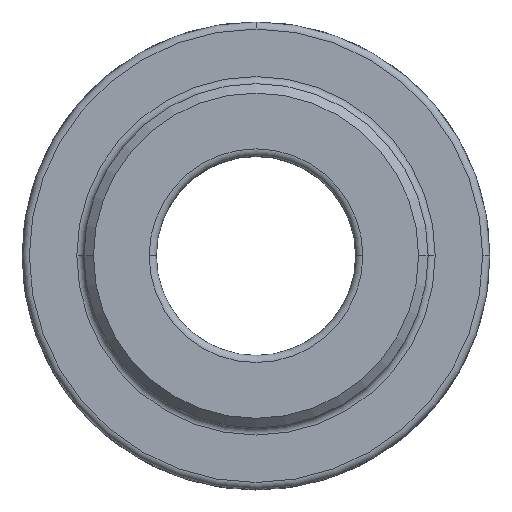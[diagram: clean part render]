
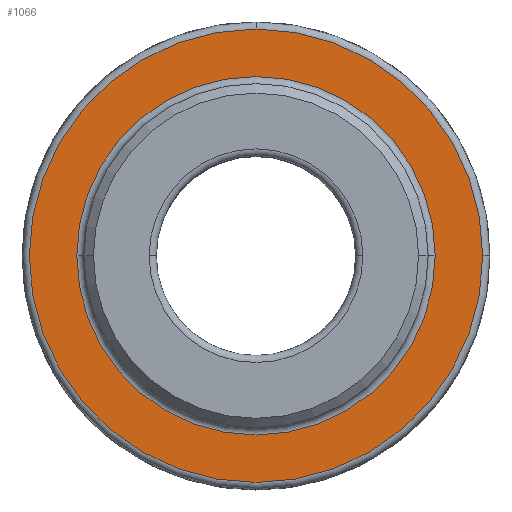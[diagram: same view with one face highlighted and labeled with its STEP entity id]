
A CAD part, top view. The second image highlights one B-rep face of the part: STEP entity #1066.
In plain terms, the highlighted planar face has unit normal (0, 0, 1).
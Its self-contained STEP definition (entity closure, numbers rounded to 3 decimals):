
#949=AXIS2_PLACEMENT_3D('Circle Axis2P3D',#947,#948,$) ;
#966=AXIS2_PLACEMENT_3D('Circle Axis2P3D',#964,#965,$) ;
#973=AXIS2_PLACEMENT_3D('Circle Axis2P3D',#971,#972,$) ;
#980=AXIS2_PLACEMENT_3D('Circle Axis2P3D',#978,#979,$) ;
#1040=AXIS2_PLACEMENT_3D('Plane Axis2P3D',#1037,#1038,#1039) ;
#1050=AXIS2_PLACEMENT_3D('Circle Axis2P3D',#1048,#1049,$) ;
#1059=AXIS2_PLACEMENT_3D('Circle Axis2P3D',#1057,#1058,$) ;
#937=CARTESIAN_POINT('Vertex',(9.55,0.,4.85)) ;
#944=CARTESIAN_POINT('Vertex',(0.,9.55,4.85)) ;
#947=CARTESIAN_POINT('Axis2P3D Location',(0.,0.,4.85)) ;
#964=CARTESIAN_POINT('Axis2P3D Location',(0.,0.,4.85)) ;
#968=CARTESIAN_POINT('Vertex',(0.,-9.55,4.85)) ;
#971=CARTESIAN_POINT('Axis2P3D Location',(0.,0.,4.85)) ;
#975=CARTESIAN_POINT('Vertex',(-9.55,0.,4.85)) ;
#978=CARTESIAN_POINT('Axis2P3D Location',(0.,0.,4.85)) ;
#1037=CARTESIAN_POINT('Axis2P3D Location',(0.,0.,4.85)) ;
#1048=CARTESIAN_POINT('Axis2P3D Location',(0.,0.,4.85)) ;
#1052=CARTESIAN_POINT('Vertex',(7.55,0.,4.85)) ;
#1054=CARTESIAN_POINT('Vertex',(-7.55,0.,4.85)) ;
#1057=CARTESIAN_POINT('Axis2P3D Location',(0.,0.,4.85)) ;
#948=DIRECTION('Axis2P3D Direction',(0.,0.,1.)) ;
#965=DIRECTION('Axis2P3D Direction',(0.,-0.,1.)) ;
#972=DIRECTION('Axis2P3D Direction',(0.,-0.,1.)) ;
#979=DIRECTION('Axis2P3D Direction',(0.,-0.,1.)) ;
#1038=DIRECTION('Axis2P3D Direction',(0.,0.,1.)) ;
#1039=DIRECTION('Axis2P3D XDirection',(1.,0.,0.)) ;
#1049=DIRECTION('Axis2P3D Direction',(0.,0.,1.)) ;
#1058=DIRECTION('Axis2P3D Direction',(0.,0.,1.)) ;
#1043=ORIENTED_EDGE('',*,*,#977,.T.) ;
#1044=ORIENTED_EDGE('',*,*,#970,.T.) ;
#1045=ORIENTED_EDGE('',*,*,#951,.T.) ;
#1046=ORIENTED_EDGE('',*,*,#982,.T.) ;
#1063=ORIENTED_EDGE('',*,*,#1056,.T.) ;
#1064=ORIENTED_EDGE('',*,*,#1061,.T.) ;
#1065=FACE_BOUND('',#1062,.T.) ;
#1066=ADVANCED_FACE('\X2\96F64EF651E04F554F53\X0\',(#1047,#1065),#1041,.T.) ;
#950=CIRCLE('generated circle',#949,9.55) ;
#967=CIRCLE('generated circle',#966,9.55) ;
#974=CIRCLE('generated circle',#973,9.55) ;
#981=CIRCLE('generated circle',#980,9.55) ;
#1051=CIRCLE('generated circle',#1050,7.55) ;
#1060=CIRCLE('generated circle',#1059,7.55) ;
#951=EDGE_CURVE('',#938,#945,#950,.T.) ;
#970=EDGE_CURVE('',#969,#938,#967,.T.) ;
#977=EDGE_CURVE('',#976,#969,#974,.T.) ;
#982=EDGE_CURVE('',#945,#976,#981,.T.) ;
#1056=EDGE_CURVE('',#1053,#1055,#1051,.F.) ;
#1061=EDGE_CURVE('',#1055,#1053,#1060,.F.) ;
#1042=EDGE_LOOP('',(#1043,#1044,#1045,#1046)) ;
#1062=EDGE_LOOP('',(#1063,#1064)) ;
#1047=FACE_OUTER_BOUND('',#1042,.T.) ;
#1041=PLANE('Plane',#1040) ;
#938=VERTEX_POINT('',#937) ;
#945=VERTEX_POINT('',#944) ;
#969=VERTEX_POINT('',#968) ;
#976=VERTEX_POINT('',#975) ;
#1053=VERTEX_POINT('',#1052) ;
#1055=VERTEX_POINT('',#1054) ;
